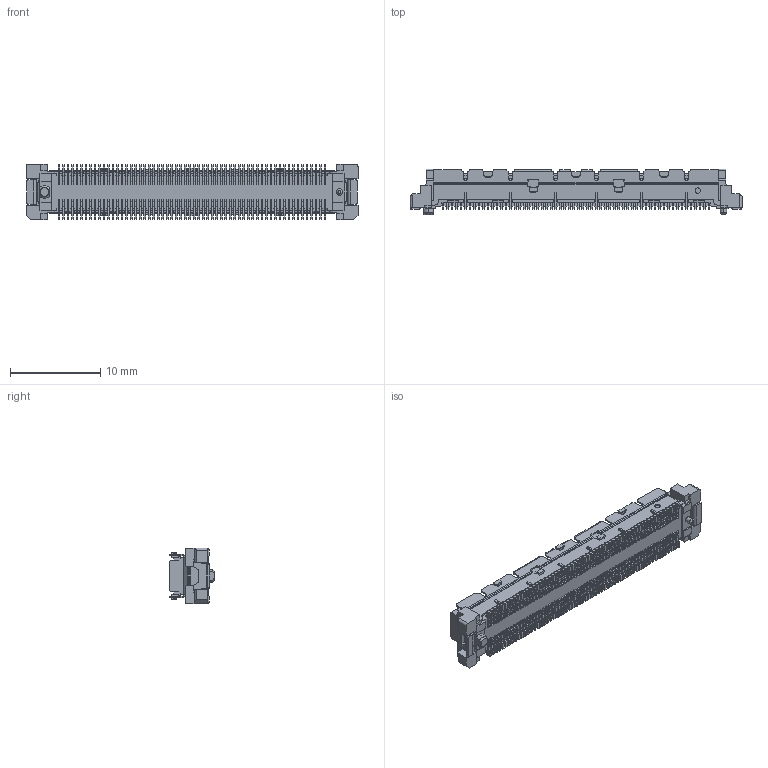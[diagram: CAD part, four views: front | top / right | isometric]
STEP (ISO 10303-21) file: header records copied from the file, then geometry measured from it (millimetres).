
FILE_DESCRIPTION (( 'STEP AP214' ), '1' );
FILE_NAME ('401-51401-5x_3D.STEP', '2018-03-26T09:13:48', ( '' ), ( '' ), 'SwSTEP 2.0', 'SolidWorks 2016', '' );
FILE_SCHEMA (( 'AUTOMOTIVE_DESIGN' ));
Length unit declared in the file: millimetre
Products named in the file (1): 401-51401-5x_3D
Bounding box: 36.8 x 5.05 x 6.2 mm (x, y, z)
Volume: 389.5 mm3; surface area: 1657.8 mm2
Topology: 1 solids, 1 shells, 6125 faces, 18075 edges, 12027 vertices
Faces by surface type: plane 3893, cylinder 2227, cone 5
Entity records: 271485 total; most frequent: CARTESIAN_POINT 37166, ORIENTED_EDGE 36150, DIRECTION 34208, EDGE_CURVE 18075, VECTOR 13574, LINE 13574, VERTEX_POINT 12027, AXIS2_PLACEMENT_3D 10317
